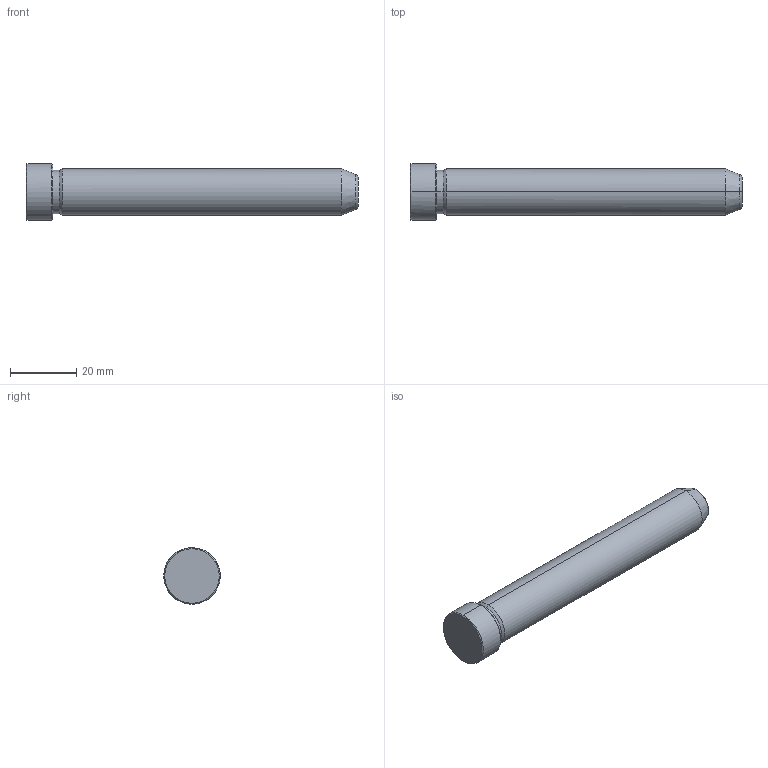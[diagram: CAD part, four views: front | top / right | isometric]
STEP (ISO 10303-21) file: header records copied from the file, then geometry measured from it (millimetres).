
FILE_DESCRIPTION(('CATIA V5 STEP Exchange'),'2;1');
FILE_NAME('C:\Users\Utente\Desktop\IO LAVORO\3D X SITO CF\X SITO\PLASTICA\549\549-14X100.stp','2021-12-11T09:26:46+00:00',('none'),('none'),'CATIA Version 5 Release 20 GA (IN-10)','CATIA V5 STEP AP203','none');
FILE_SCHEMA(('CONFIG_CONTROL_DESIGN'));
Length unit declared in the file: millimetre
Products named in the file (1): 549-14X100
Bounding box: 100 x 17 x 17 mm (x, y, z)
Volume: 15718.4 mm3; surface area: 4829.6 mm2
Topology: 1 solids, 1 shells, 19 faces, 56 edges, 40 vertices
Faces by surface type: cone 8, cylinder 6, plane 3, torus 2
Entity records: 736 total; most frequent: CARTESIAN_POINT 192, ORIENTED_EDGE 112, DIRECTION 86, EDGE_CURVE 56, AXIS2_PLACEMENT_3D 54, VERTEX_POINT 40, CIRCLE 34, EDGE_LOOP 20
